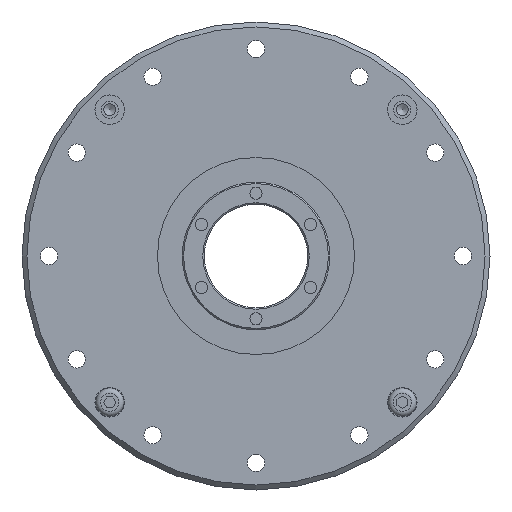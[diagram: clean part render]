
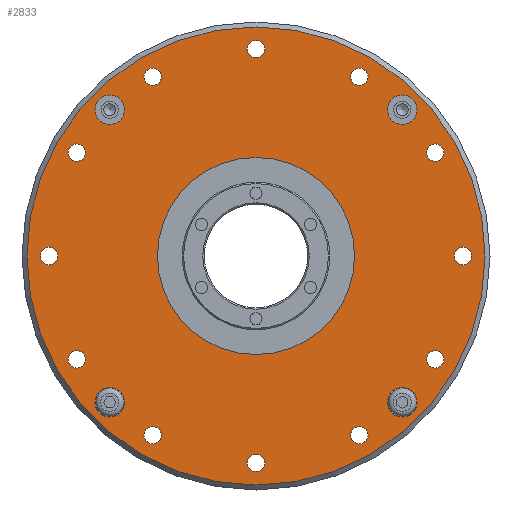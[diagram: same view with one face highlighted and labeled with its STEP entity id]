
A CAD part, front view. The second image highlights one B-rep face of the part: STEP entity #2833.
In plain terms, the highlighted planar face has unit normal (0, -1, 0).
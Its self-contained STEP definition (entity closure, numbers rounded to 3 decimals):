
#1722=FACE_BOUND('',#4251,.T.);
#1723=FACE_BOUND('',#4253,.T.);
#1724=FACE_BOUND('',#4254,.T.);
#1725=FACE_BOUND('',#4255,.T.);
#1726=FACE_BOUND('',#4256,.T.);
#1727=FACE_BOUND('',#4257,.T.);
#1728=FACE_BOUND('',#4258,.T.);
#1729=FACE_BOUND('',#4259,.T.);
#1730=FACE_BOUND('',#4260,.T.);
#1731=FACE_BOUND('',#4261,.T.);
#1732=FACE_BOUND('',#4262,.T.);
#1733=FACE_BOUND('',#4263,.T.);
#1734=FACE_BOUND('',#4264,.T.);
#1735=FACE_BOUND('',#4265,.T.);
#1736=FACE_BOUND('',#4266,.T.);
#1737=FACE_BOUND('',#4267,.T.);
#1738=FACE_BOUND('',#4268,.T.);
#2833=ADVANCED_FACE('',(#1722,#3451,#1723,#1724,#1725,#1726,#1727,#1728,
#1729,#1730,#1731,#1732,#1733,#1734,#1735,#1736,#1737,#1738),#3158,.T.);
#3158=PLANE('',#9668);
#3451=FACE_OUTER_BOUND('',#4252,.T.);
#4251=EDGE_LOOP('',(#5965));
#4252=EDGE_LOOP('',(#5966));
#4253=EDGE_LOOP('',(#5967));
#4254=EDGE_LOOP('',(#5968));
#4255=EDGE_LOOP('',(#5969));
#4256=EDGE_LOOP('',(#5970));
#4257=EDGE_LOOP('',(#5971));
#4258=EDGE_LOOP('',(#5972));
#4259=EDGE_LOOP('',(#5973));
#4260=EDGE_LOOP('',(#5974));
#4261=EDGE_LOOP('',(#5975));
#4262=EDGE_LOOP('',(#5976));
#4263=EDGE_LOOP('',(#5977));
#4264=EDGE_LOOP('',(#5978));
#4265=EDGE_LOOP('',(#5979));
#4266=EDGE_LOOP('',(#5980));
#4267=EDGE_LOOP('',(#5981));
#4268=EDGE_LOOP('',(#5982));
#5965=ORIENTED_EDGE('',*,*,#7844,.T.);
#5966=ORIENTED_EDGE('',*,*,#7845,.T.);
#5967=ORIENTED_EDGE('',*,*,#7846,.T.);
#5968=ORIENTED_EDGE('',*,*,#7847,.T.);
#5969=ORIENTED_EDGE('',*,*,#7848,.T.);
#5970=ORIENTED_EDGE('',*,*,#7849,.T.);
#5971=ORIENTED_EDGE('',*,*,#7824,.T.);
#5972=ORIENTED_EDGE('',*,*,#7825,.T.);
#5973=ORIENTED_EDGE('',*,*,#7826,.T.);
#5974=ORIENTED_EDGE('',*,*,#7827,.T.);
#5975=ORIENTED_EDGE('',*,*,#7828,.T.);
#5976=ORIENTED_EDGE('',*,*,#7829,.T.);
#5977=ORIENTED_EDGE('',*,*,#7830,.T.);
#5978=ORIENTED_EDGE('',*,*,#7831,.T.);
#5979=ORIENTED_EDGE('',*,*,#7832,.T.);
#5980=ORIENTED_EDGE('',*,*,#7833,.T.);
#5981=ORIENTED_EDGE('',*,*,#7834,.T.);
#5982=ORIENTED_EDGE('',*,*,#7850,.T.);
#6958=VERTEX_POINT('',#14421);
#6959=VERTEX_POINT('',#14424);
#6960=VERTEX_POINT('',#14427);
#6961=VERTEX_POINT('',#14430);
#6962=VERTEX_POINT('',#14433);
#6963=VERTEX_POINT('',#14436);
#6964=VERTEX_POINT('',#14439);
#6965=VERTEX_POINT('',#14442);
#6966=VERTEX_POINT('',#14445);
#6967=VERTEX_POINT('',#14448);
#6968=VERTEX_POINT('',#14451);
#6978=VERTEX_POINT('',#14479);
#6979=VERTEX_POINT('',#14481);
#6980=VERTEX_POINT('',#14483);
#6981=VERTEX_POINT('',#14485);
#6982=VERTEX_POINT('',#14487);
#6983=VERTEX_POINT('',#14489);
#6984=VERTEX_POINT('',#14491);
#7824=EDGE_CURVE('',#6958,#6958,#8517,.T.);
#7825=EDGE_CURVE('',#6959,#6959,#8518,.T.);
#7826=EDGE_CURVE('',#6960,#6960,#8519,.T.);
#7827=EDGE_CURVE('',#6961,#6961,#8520,.T.);
#7828=EDGE_CURVE('',#6962,#6962,#8521,.T.);
#7829=EDGE_CURVE('',#6963,#6963,#8522,.T.);
#7830=EDGE_CURVE('',#6964,#6964,#8523,.T.);
#7831=EDGE_CURVE('',#6965,#6965,#8524,.T.);
#7832=EDGE_CURVE('',#6966,#6966,#8525,.T.);
#7833=EDGE_CURVE('',#6967,#6967,#8526,.T.);
#7834=EDGE_CURVE('',#6968,#6968,#8527,.T.);
#7844=EDGE_CURVE('',#6978,#6978,#8537,.T.);
#7845=EDGE_CURVE('',#6979,#6979,#8538,.T.);
#7846=EDGE_CURVE('',#6980,#6980,#8539,.T.);
#7847=EDGE_CURVE('',#6981,#6981,#8540,.T.);
#7848=EDGE_CURVE('',#6982,#6982,#8541,.T.);
#7849=EDGE_CURVE('',#6983,#6983,#8542,.T.);
#7850=EDGE_CURVE('',#6984,#6984,#8543,.T.);
#8517=CIRCLE('',#9623,1.75);
#8518=CIRCLE('',#9625,1.75);
#8519=CIRCLE('',#9627,1.75);
#8520=CIRCLE('',#9629,1.75);
#8521=CIRCLE('',#9631,1.75);
#8522=CIRCLE('',#9633,1.75);
#8523=CIRCLE('',#9635,1.75);
#8524=CIRCLE('',#9637,1.75);
#8525=CIRCLE('',#9639,1.75);
#8526=CIRCLE('',#9641,1.75);
#8527=CIRCLE('',#9643,1.75);
#8537=CIRCLE('',#9661,20.);
#8538=CIRCLE('',#9662,46.5);
#8539=CIRCLE('',#9663,3.);
#8540=CIRCLE('',#9664,3.);
#8541=CIRCLE('',#9665,3.);
#8542=CIRCLE('',#9666,3.);
#8543=CIRCLE('',#9667,1.75);
#9623=AXIS2_PLACEMENT_3D('',#14420,#11975,#11976);
#9625=AXIS2_PLACEMENT_3D('',#14423,#11979,#11980);
#9627=AXIS2_PLACEMENT_3D('',#14426,#11983,#11984);
#9629=AXIS2_PLACEMENT_3D('',#14429,#11987,#11988);
#9631=AXIS2_PLACEMENT_3D('',#14432,#11991,#11992);
#9633=AXIS2_PLACEMENT_3D('',#14435,#11995,#11996);
#9635=AXIS2_PLACEMENT_3D('',#14438,#11999,#12000);
#9637=AXIS2_PLACEMENT_3D('',#14441,#12003,#12004);
#9639=AXIS2_PLACEMENT_3D('',#14444,#12007,#12008);
#9641=AXIS2_PLACEMENT_3D('',#14447,#12011,#12012);
#9643=AXIS2_PLACEMENT_3D('',#14450,#12015,#12016);
#9661=AXIS2_PLACEMENT_3D('',#14478,#12051,#12052);
#9662=AXIS2_PLACEMENT_3D('',#14480,#12053,#12054);
#9663=AXIS2_PLACEMENT_3D('',#14482,#12055,#12056);
#9664=AXIS2_PLACEMENT_3D('',#14484,#12057,#12058);
#9665=AXIS2_PLACEMENT_3D('',#14486,#12059,#12060);
#9666=AXIS2_PLACEMENT_3D('',#14488,#12061,#12062);
#9667=AXIS2_PLACEMENT_3D('',#14490,#12063,#12064);
#9668=AXIS2_PLACEMENT_3D('',#14492,#12065,#12066);
#11975=DIRECTION('',(0.,1.,0.));
#11976=DIRECTION('',(-0.866,0.,-0.5));
#11979=DIRECTION('',(0.,1.,0.));
#11980=DIRECTION('',(-0.5,0.,-0.866));
#11983=DIRECTION('',(0.,1.,0.));
#11984=DIRECTION('',(0.,0.,-1.));
#11987=DIRECTION('',(0.,1.,0.));
#11988=DIRECTION('',(0.5,0.,-0.866));
#11991=DIRECTION('',(0.,1.,0.));
#11992=DIRECTION('',(0.866,0.,-0.5));
#11995=DIRECTION('',(0.,1.,0.));
#11996=DIRECTION('',(1.,0.,0.));
#11999=DIRECTION('',(0.,1.,0.));
#12000=DIRECTION('',(0.866,0.,0.5));
#12003=DIRECTION('',(0.,1.,0.));
#12004=DIRECTION('',(0.5,0.,0.866));
#12007=DIRECTION('',(0.,1.,0.));
#12008=DIRECTION('',(0.,0.,1.));
#12011=DIRECTION('',(0.,1.,0.));
#12012=DIRECTION('',(-0.5,0.,0.866));
#12015=DIRECTION('',(0.,1.,0.));
#12016=DIRECTION('',(-0.866,0.,0.5));
#12051=DIRECTION('',(0.,1.,0.));
#12052=DIRECTION('',(-1.,0.,0.));
#12053=DIRECTION('',(0.,-1.,0.));
#12054=DIRECTION('',(1.,0.,0.));
#12055=DIRECTION('',(0.,1.,0.));
#12056=DIRECTION('',(-1.,0.,0.));
#12057=DIRECTION('',(0.,1.,0.));
#12058=DIRECTION('',(-1.,0.,0.));
#12059=DIRECTION('',(0.,1.,0.));
#12060=DIRECTION('',(-1.,0.,0.));
#12061=DIRECTION('',(0.,1.,0.));
#12062=DIRECTION('',(-1.,0.,0.));
#12063=DIRECTION('',(0.,1.,0.));
#12064=DIRECTION('',(-1.,0.,0.));
#12065=DIRECTION('',(0.,-1.,0.));
#12066=DIRECTION('',(1.,0.,0.));
#14420=CARTESIAN_POINT('',(-21.,-33.5,36.373));
#14421=CARTESIAN_POINT('',(-22.516,-33.5,35.498));
#14423=CARTESIAN_POINT('',(-36.373,-33.5,21.));
#14424=CARTESIAN_POINT('',(-37.248,-33.5,19.484));
#14426=CARTESIAN_POINT('',(-42.,-33.5,0.));
#14427=CARTESIAN_POINT('',(-42.,-33.5,-1.75));
#14429=CARTESIAN_POINT('',(-36.373,-33.5,-21.));
#14430=CARTESIAN_POINT('',(-35.498,-33.5,-22.516));
#14432=CARTESIAN_POINT('',(-21.,-33.5,-36.373));
#14433=CARTESIAN_POINT('',(-19.484,-33.5,-37.248));
#14435=CARTESIAN_POINT('',(0.,-33.5,-42.));
#14436=CARTESIAN_POINT('',(1.75,-33.5,-42.));
#14438=CARTESIAN_POINT('',(21.,-33.5,-36.373));
#14439=CARTESIAN_POINT('',(22.516,-33.5,-35.498));
#14441=CARTESIAN_POINT('',(36.373,-33.5,-21.));
#14442=CARTESIAN_POINT('',(37.248,-33.5,-19.484));
#14444=CARTESIAN_POINT('',(42.,-33.5,0.));
#14445=CARTESIAN_POINT('',(42.,-33.5,1.75));
#14447=CARTESIAN_POINT('',(36.373,-33.5,21.));
#14448=CARTESIAN_POINT('',(35.498,-33.5,22.516));
#14450=CARTESIAN_POINT('',(21.,-33.5,36.373));
#14451=CARTESIAN_POINT('',(19.484,-33.5,37.248));
#14478=CARTESIAN_POINT('',(0.,-33.5,0.));
#14479=CARTESIAN_POINT('',(-20.,-33.5,0.));
#14480=CARTESIAN_POINT('',(0.,-33.5,0.));
#14481=CARTESIAN_POINT('',(46.5,-33.5,0.));
#14482=CARTESIAN_POINT('',(-29.698,-33.5,-29.698));
#14483=CARTESIAN_POINT('',(-32.698,-33.5,-29.698));
#14484=CARTESIAN_POINT('',(-29.698,-33.5,29.698));
#14485=CARTESIAN_POINT('',(-32.698,-33.5,29.698));
#14486=CARTESIAN_POINT('',(29.698,-33.5,29.698));
#14487=CARTESIAN_POINT('',(26.698,-33.5,29.698));
#14488=CARTESIAN_POINT('',(29.698,-33.5,-29.698));
#14489=CARTESIAN_POINT('',(26.698,-33.5,-29.698));
#14490=CARTESIAN_POINT('',(0.,-33.5,42.));
#14491=CARTESIAN_POINT('',(-1.75,-33.5,42.));
#14492=CARTESIAN_POINT('',(-45.,-33.5,0.));
